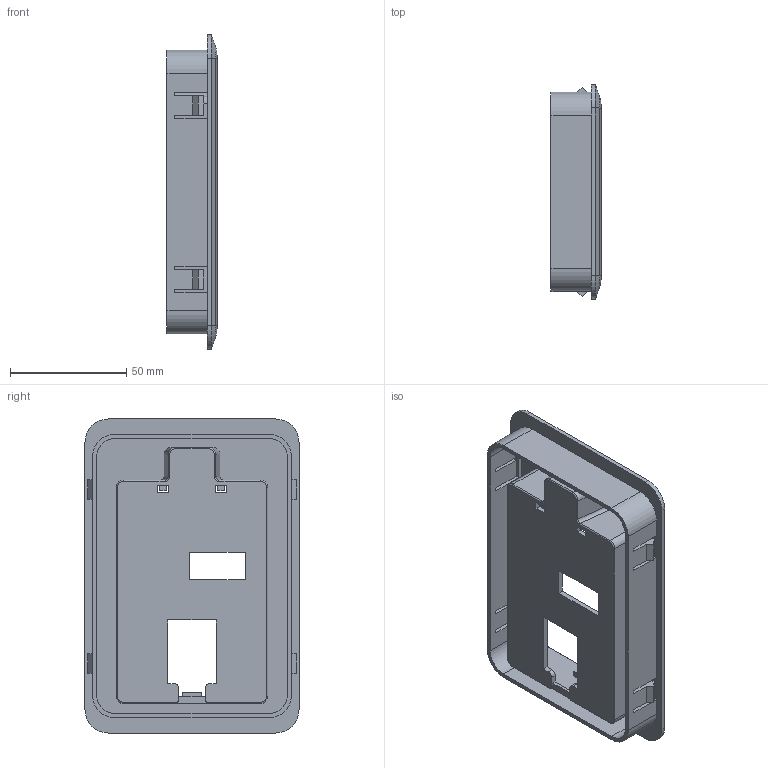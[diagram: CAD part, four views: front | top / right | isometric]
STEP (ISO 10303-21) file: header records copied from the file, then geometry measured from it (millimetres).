
FILE_DESCRIPTION(('STEP AP203'), '1');
FILE_NAME('Ðàìêà ìîíòàæíàÿ _ LCI-MF-B', '', ('UNSPECIFIED'), ('UNSPECIFIED'), 'C3D Converter', 'C3D Toolkit', '');
FILE_SCHEMA(('CONFIG_CONTROL_DESIGN'));
Length unit declared in the file: millimetre
Products named in the file (1): LCI-MF
Bounding box: 21.5 x 92 x 135 mm (x, y, z)
Volume: 54011.7 mm3; surface area: 49701.6 mm2
Topology: 1 solids, 1 shells, 194 faces, 530 edges, 334 vertices
Faces by surface type: plane 116, cylinder 54, torus 12, bspline 8, cone 4
Entity records: 8242 total; most frequent: CARTESIAN_POINT 1735, ORIENTED_EDGE 1056, DIRECTION 988, EDGE_CURVE 528, LINE 398, VECTOR 398, VERTEX_POINT 334, AXIS2_PLACEMENT_3D 295
